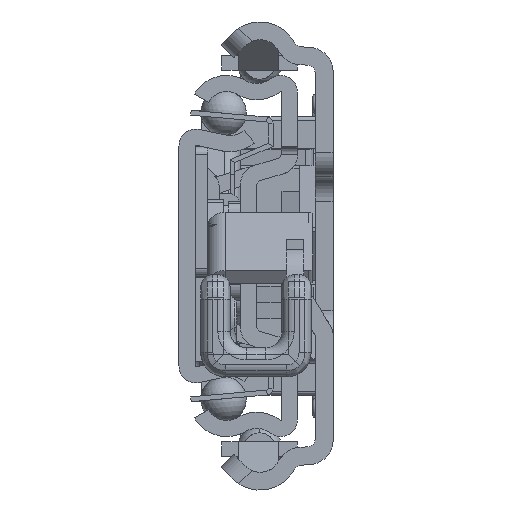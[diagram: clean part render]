
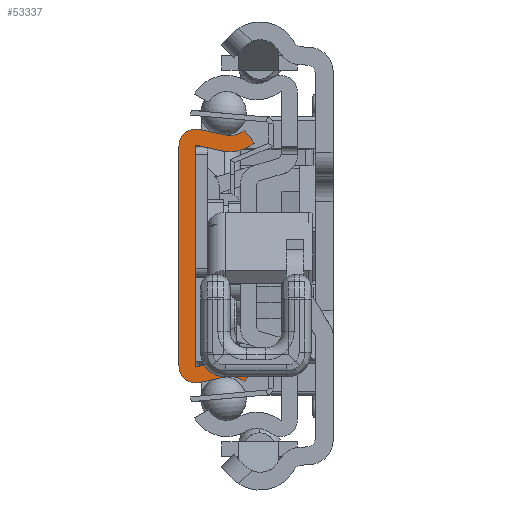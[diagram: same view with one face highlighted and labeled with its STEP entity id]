
A CAD part, left-side view. The second image highlights one B-rep face of the part: STEP entity #53337.
In plain terms, the highlighted planar face has unit normal (-1, 0, 0).
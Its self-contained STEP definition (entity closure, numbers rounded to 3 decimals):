
#48113=CARTESIAN_POINT('',(0.,-6.29,-17.65));
#48114=DIRECTION('',(-1.,0.,0.));
#48115=DIRECTION('',(0.,-0.629,0.778));
#48116=AXIS2_PLACEMENT_3D('',#48113,#48114,#48115);
#48118=DIRECTION('',(0.,0.977,-0.213));
#48119=VECTOR('',#48118,3.218);
#48120=CARTESIAN_POINT('',(0.,-5.692,-14.915));
#48121=LINE('',#48120,#48119);
#48122=CARTESIAN_POINT('',(0.,-2.1,-13.55));
#48123=DIRECTION('',(1.,0.,0.));
#48124=DIRECTION('',(0.,-0.213,-0.977));
#48125=AXIS2_PLACEMENT_3D('',#48122,#48123,#48124);
#48127=DIRECTION('',(0.,0.,1.));
#48128=VECTOR('',#48127,27.1);
#48129=CARTESIAN_POINT('',(0.,0.,-13.55));
#48130=LINE('',#48129,#48128);
#48131=CARTESIAN_POINT('',(0.,-2.1,13.55));
#48132=DIRECTION('',(1.,0.,0.));
#48133=DIRECTION('',(0.,1.,0.));
#48134=AXIS2_PLACEMENT_3D('',#48131,#48132,#48133);
#48136=DIRECTION('',(0.,-0.977,-0.213));
#48137=VECTOR('',#48136,3.218);
#48138=CARTESIAN_POINT('',(0.,-2.548,15.602));
#48139=LINE('',#48138,#48137);
#48140=CARTESIAN_POINT('',(0.,-6.29,17.65));
#48141=DIRECTION('',(-1.,0.,0.));
#48142=DIRECTION('',(0.,0.213,-0.977));
#48143=AXIS2_PLACEMENT_3D('',#48140,#48141,#48142);
#48145=DIRECTION('',(0.,-0.629,-0.778));
#48146=VECTOR('',#48145,2.);
#48147=CARTESIAN_POINT('',(0.,-8.05,15.472));
#48148=LINE('',#48147,#48146);
#48149=CARTESIAN_POINT('',(0.,-6.29,17.65));
#48150=DIRECTION('',(1.,0.,0.));
#48151=DIRECTION('',(0.,-0.629,-0.778));
#48152=AXIS2_PLACEMENT_3D('',#48149,#48150,#48151);
#48154=DIRECTION('',(0.,0.977,0.213));
#48155=VECTOR('',#48154,3.218);
#48156=CARTESIAN_POINT('',(0.,-5.265,12.961));
#48157=LINE('',#48156,#48155);
#48158=CARTESIAN_POINT('',(0.,-2.1,13.55));
#48159=DIRECTION('',(-1.,0.,0.));
#48160=DIRECTION('',(0.,-0.213,0.977));
#48161=AXIS2_PLACEMENT_3D('',#48158,#48159,#48160);
#48163=DIRECTION('',(0.,0.,-1.));
#48164=VECTOR('',#48163,27.1);
#48165=CARTESIAN_POINT('',(0.,-2.,13.55));
#48166=LINE('',#48165,#48164);
#48167=CARTESIAN_POINT('',(0.,-2.1,-13.55));
#48168=DIRECTION('',(-1.,0.,0.));
#48169=DIRECTION('',(0.,1.,0.));
#48170=AXIS2_PLACEMENT_3D('',#48167,#48168,#48169);
#48172=DIRECTION('',(0.,-0.977,0.213));
#48173=VECTOR('',#48172,3.218);
#48174=CARTESIAN_POINT('',(0.,-2.121,-13.648));
#48175=LINE('',#48174,#48173);
#48176=CARTESIAN_POINT('',(0.,-6.29,-17.65));
#48177=DIRECTION('',(1.,0.,0.));
#48178=DIRECTION('',(0.,0.213,0.977));
#48179=AXIS2_PLACEMENT_3D('',#48176,#48177,#48178);
#48181=DIRECTION('',(0.,0.629,-0.778));
#48182=VECTOR('',#48181,2.);
#48183=CARTESIAN_POINT('',(0.,-9.307,-13.917));
#48184=LINE('',#48183,#48182);
#51841=CARTESIAN_POINT('',(0.,-8.05,-15.472));
#51842=CARTESIAN_POINT('',(0.,-5.692,-14.915));
#51843=VERTEX_POINT('',#51841);
#51844=VERTEX_POINT('',#51842);
#51845=CARTESIAN_POINT('',(0.,-2.548,-15.602));
#51846=VERTEX_POINT('',#51845);
#51847=CARTESIAN_POINT('',(0.,0.,-13.55));
#51848=VERTEX_POINT('',#51847);
#51849=CARTESIAN_POINT('',(0.,0.,13.55));
#51850=VERTEX_POINT('',#51849);
#51851=CARTESIAN_POINT('',(0.,-2.548,15.602));
#51852=VERTEX_POINT('',#51851);
#51853=CARTESIAN_POINT('',(0.,-5.692,14.915));
#51854=VERTEX_POINT('',#51853);
#51855=CARTESIAN_POINT('',(0.,-8.05,15.472));
#51856=VERTEX_POINT('',#51855);
#51857=CARTESIAN_POINT('',(0.,-9.307,13.917));
#51858=VERTEX_POINT('',#51857);
#51859=CARTESIAN_POINT('',(0.,-5.265,12.961));
#51860=VERTEX_POINT('',#51859);
#51861=CARTESIAN_POINT('',(0.,-2.121,13.648));
#51862=VERTEX_POINT('',#51861);
#51863=CARTESIAN_POINT('',(0.,-2.,13.55));
#51864=VERTEX_POINT('',#51863);
#51865=CARTESIAN_POINT('',(0.,-2.,-13.55));
#51866=VERTEX_POINT('',#51865);
#51867=CARTESIAN_POINT('',(0.,-2.121,-13.648));
#51868=VERTEX_POINT('',#51867);
#51869=CARTESIAN_POINT('',(0.,-5.265,-12.961));
#51870=VERTEX_POINT('',#51869);
#51871=CARTESIAN_POINT('',(0.,-9.307,-13.917));
#51872=VERTEX_POINT('',#51871);
#53299=CARTESIAN_POINT('',(0.,0.,0.));
#53300=DIRECTION('',(1.,0.,0.));
#53301=DIRECTION('',(0.,-1.,0.));
#53302=AXIS2_PLACEMENT_3D('',#53299,#53300,#53301);
#53303=PLANE('',#53302);
#53305=ORIENTED_EDGE('',*,*,#53304,.T.);
#53307=ORIENTED_EDGE('',*,*,#53306,.T.);
#53309=ORIENTED_EDGE('',*,*,#53308,.T.);
#53310=ORIENTED_EDGE('',*,*,#52893,.T.);
#53312=ORIENTED_EDGE('',*,*,#53311,.T.);
#53314=ORIENTED_EDGE('',*,*,#53313,.T.);
#53316=ORIENTED_EDGE('',*,*,#53315,.T.);
#53318=ORIENTED_EDGE('',*,*,#53317,.T.);
#53320=ORIENTED_EDGE('',*,*,#53319,.T.);
#53322=ORIENTED_EDGE('',*,*,#53321,.T.);
#53324=ORIENTED_EDGE('',*,*,#53323,.T.);
#53326=ORIENTED_EDGE('',*,*,#53325,.T.);
#53328=ORIENTED_EDGE('',*,*,#53327,.T.);
#53330=ORIENTED_EDGE('',*,*,#53329,.T.);
#53332=ORIENTED_EDGE('',*,*,#53331,.T.);
#53334=ORIENTED_EDGE('',*,*,#53333,.T.);
#53335=EDGE_LOOP('',(#53305,#53307,#53309,#53310,#53312,#53314,#53316,#53318,
#53320,#53322,#53324,#53326,#53328,#53330,#53332,#53334));
#53336=FACE_OUTER_BOUND('',#53335,.F.);
#48117=CIRCLE('',#48116,2.8);
#48126=CIRCLE('',#48125,2.1);
#48135=CIRCLE('',#48134,2.1);
#48144=CIRCLE('',#48143,2.8);
#48153=CIRCLE('',#48152,4.8);
#48162=CIRCLE('',#48161,0.1);
#48171=CIRCLE('',#48170,0.1);
#48180=CIRCLE('',#48179,4.8);
#52893=EDGE_CURVE('',#51848,#51850,#48130,.T.);
#53304=EDGE_CURVE('',#51843,#51844,#48117,.T.);
#53306=EDGE_CURVE('',#51844,#51846,#48121,.T.);
#53308=EDGE_CURVE('',#51846,#51848,#48126,.T.);
#53311=EDGE_CURVE('',#51850,#51852,#48135,.T.);
#53313=EDGE_CURVE('',#51852,#51854,#48139,.T.);
#53315=EDGE_CURVE('',#51854,#51856,#48144,.T.);
#53317=EDGE_CURVE('',#51856,#51858,#48148,.T.);
#53319=EDGE_CURVE('',#51858,#51860,#48153,.T.);
#53321=EDGE_CURVE('',#51860,#51862,#48157,.T.);
#53323=EDGE_CURVE('',#51862,#51864,#48162,.T.);
#53325=EDGE_CURVE('',#51864,#51866,#48166,.T.);
#53327=EDGE_CURVE('',#51866,#51868,#48171,.T.);
#53329=EDGE_CURVE('',#51868,#51870,#48175,.T.);
#53331=EDGE_CURVE('',#51870,#51872,#48180,.T.);
#53333=EDGE_CURVE('',#51872,#51843,#48184,.T.);
#53337=ADVANCED_FACE('',(#53336),#53303,.F.);
